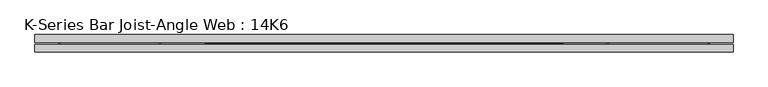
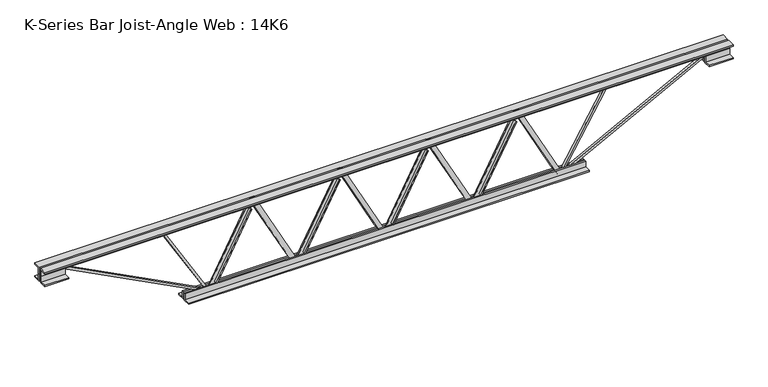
"""IFC4 building model written with IfcOpenShell, lengths in millimetres: beam geometry, K-Series Bar Joist-Angle Web : 14K6."""

from ifc_helpers import new_model, si_unit, frame, origin, place, context, project, spatial, polyline, outline, extrude, faceted_brep, source, transform, mapped, element, save


def k_series_bar_joist_angle_web_14k6_bca73873(model_context):
    return source(origin(), model_context, "Body", "SolidModel", [
        extrude(outline(polyline([(-4.7625, 4.7624999), (-4.7625, 0.0), (-17.4625, 0.0), (-17.4625, 4.7624999), (-4.7625, 4.7624999)])), frame((343.334481, 0.0, -139.7), z_axis=(-0.4666662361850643, 0.0, 0.8844335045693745), x_axis=(0.0, -1.0, 0.0)), (0.0, 0.0, 1.0), 315.9084301),
        extrude(outline(polyline([(-174.625, 373.85625), (-155.575, 373.85625), (-155.575, 373.2500443), (174.625, 199.0219193), (174.625, 180.578125), (155.575, 180.578125), (155.575, 187.5343307), (-174.625, 361.7624557), (-174.625, 373.85625)])), frame((0.0, 0.0, 0.0), z_axis=(0.0, 1.0, 0.0), x_axis=(0.0, 0.0, 1.0)), (0.0, 0.0, 1.0), 4.7625),
        faceted_brep([(0.0, 0.0, -155.575), (0.0, 0.0, -174.625), (0.0, -4.7625, -174.625), (0.0, -4.7625, -155.575), (0.6062057, 0.0, -155.575), (174.8343307, 0.0, 174.625), (193.278125, 0.0, 174.625), (193.278125, 0.0, 155.575), (186.3219193, 0.0, 155.575), (12.0937943, 0.0, -174.625), (12.0937943, -4.7625, -174.625), (30.521769, -4.7625, -139.7), (26.3096545, -4.7625, -137.4775021), (173.7334525, -4.7625, 141.9224979), (177.9455671, -4.7625, 139.7), (186.3219193, -4.7625, 155.575), (193.278125, -4.7625, 155.575), (193.278125, -4.7625, 174.625), (174.8343307, -4.7625, 174.625), (0.6062057, -4.7625, -155.575), (177.9455671, -17.4625, 139.7), (30.521769, -17.4625, -139.7), (26.3096545, -17.4625, -137.4775021), (173.7334525, -17.4625, 141.9224979)], [[[0, 1, 2, 3]], [[1, 0, 4, 5, 6, 7, 8, 9]], [[2, 1, 9, 10]], [[3, 2, 10, 11, 12, 13, 14, 15, 16, 17, 18, 19]], [[0, 3, 19, 4]], [[9, 8, 15, 14, 20, 21, 11, 10]], [[5, 4, 19, 18]], [[7, 6, 17, 16]], [[8, 7, 16, 15]], [[6, 5, 18, 17]], [[21, 22, 12, 11]], [[20, 14, 13, 23]], [[22, 21, 20, 23]], [[12, 22, 23, 13]]]),
        extrude(outline(polyline([(-4.7625, 4.7624999), (-4.7625, 0.0), (-17.4625, 0.0), (-17.4625, 4.7624999), (-4.7625, 4.7624999)])), frame((-30.521769, 0.0, -139.7), z_axis=(-0.4666662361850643, 0.0, 0.8844335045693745), x_axis=(0.0, -1.0, 0.0)), (0.0, 0.0, 1.0), 315.9084301),
        extrude(outline(polyline([(-174.625, 0.0), (-155.575, 0.0), (-155.575, -0.6062057), (174.625, -174.8343307), (174.625, -193.278125), (155.575, -193.278125), (155.575, -186.3219193), (-174.625, -12.0937943), (-174.625, 0.0)])), frame((0.0, 0.0, 0.0), z_axis=(0.0, 1.0, 0.0), x_axis=(0.0, 0.0, 1.0)), (0.0, 0.0, 1.0), 4.7625),
        faceted_brep([(-373.85625, 0.0, -155.575), (-373.85625, 0.0, -174.625), (-373.85625, -4.7625, -174.625), (-373.85625, -4.7625, -155.575), (-373.2500443, 0.0, -155.575), (-199.0219193, 0.0, 174.625), (-180.578125, 0.0, 174.625), (-180.578125, 0.0, 155.575), (-187.5343307, 0.0, 155.575), (-361.7624557, 0.0, -174.625), (-361.7624557, -4.7625, -174.625), (-343.334481, -4.7625, -139.7), (-347.5465955, -4.7625, -137.4775021), (-200.1227975, -4.7625, 141.9224979), (-195.9106829, -4.7625, 139.7), (-187.5343307, -4.7625, 155.575), (-180.578125, -4.7625, 155.575), (-180.578125, -4.7625, 174.625), (-199.0219193, -4.7625, 174.625), (-373.2500443, -4.7625, -155.575), (-195.9106829, -17.4625, 139.7), (-343.334481, -17.4625, -139.7), (-347.5465955, -17.4625, -137.4775021), (-200.1227975, -17.4625, 141.9224979)], [[[0, 1, 2, 3]], [[1, 0, 4, 5, 6, 7, 8, 9]], [[2, 1, 9, 10]], [[3, 2, 10, 11, 12, 13, 14, 15, 16, 17, 18, 19]], [[0, 3, 19, 4]], [[9, 8, 15, 14, 20, 21, 11, 10]], [[5, 4, 19, 18]], [[7, 6, 17, 16]], [[8, 7, 16, 15]], [[6, 5, 18, 17]], [[21, 22, 12, 11]], [[20, 14, 13, 23]], [[22, 21, 20, 23]], [[12, 22, 23, 13]]]),
        extrude(outline(polyline([(-4.7625, 4.7624999), (-4.7625, 0.0), (-17.4625, 0.0), (-17.4625, 4.7624999), (-4.7625, 4.7624999)])), frame((717.190731, 0.0, -139.7), z_axis=(-0.4666662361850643, 0.0, 0.8844335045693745), x_axis=(0.0, -1.0, 0.0)), (0.0, 0.0, 1.0), 315.9084301),
        extrude(outline(polyline([(-174.625, 747.7125), (-155.575, 747.7125), (-155.575, 747.1062943), (174.625, 572.8781693), (174.625, 554.434375), (155.575, 554.434375), (155.575, 561.3905807), (-174.625, 735.6187057), (-174.625, 747.7125)])), frame((0.0, 0.0, 0.0), z_axis=(0.0, 1.0, 0.0), x_axis=(0.0, 0.0, 1.0)), (0.0, 0.0, 1.0), 4.7625),
        faceted_brep([(373.85625, 0.0, -155.575), (373.85625, 0.0, -174.625), (373.85625, -4.7625, -174.625), (373.85625, -4.7625, -155.575), (374.4624557, 0.0, -155.575), (548.6905807, 0.0, 174.625), (567.134375, 0.0, 174.625), (567.134375, 0.0, 155.575), (560.1781693, 0.0, 155.575), (385.9500443, 0.0, -174.625), (385.9500443, -4.7625, -174.625), (404.378019, -4.7625, -139.7), (400.1659045, -4.7625, -137.4775021), (547.5897025, -4.7625, 141.9224979), (551.8018171, -4.7625, 139.7), (560.1781693, -4.7625, 155.575), (567.134375, -4.7625, 155.575), (567.134375, -4.7625, 174.625), (548.6905807, -4.7625, 174.625), (374.4624557, -4.7625, -155.575), (551.8018171, -17.4625, 139.7), (404.378019, -17.4625, -139.7), (400.1659045, -17.4625, -137.4775021), (547.5897025, -17.4625, 141.9224979)], [[[0, 1, 2, 3]], [[1, 0, 4, 5, 6, 7, 8, 9]], [[2, 1, 9, 10]], [[3, 2, 10, 11, 12, 13, 14, 15, 16, 17, 18, 19]], [[0, 3, 19, 4]], [[9, 8, 15, 14, 20, 21, 11, 10]], [[5, 4, 19, 18]], [[7, 6, 17, 16]], [[8, 7, 16, 15]], [[6, 5, 18, 17]], [[21, 22, 12, 11]], [[20, 14, 13, 23]], [[22, 21, 20, 23]], [[12, 22, 23, 13]]]),
        extrude(outline(polyline([(-4.7625, 4.7624999), (-4.7625, 0.0), (-17.4625, 0.0), (-17.4625, 4.7624999), (-4.7625, 4.7624999)])), frame((-404.378019, 0.0, -139.7), z_axis=(-0.4666662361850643, 0.0, 0.8844335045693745), x_axis=(0.0, -1.0, 0.0)), (0.0, 0.0, 1.0), 315.9084301),
        extrude(outline(polyline([(-174.625, -373.85625), (-155.575, -373.85625), (-155.575, -374.4624557), (174.625, -548.6905807), (174.625, -567.134375), (155.575, -567.134375), (155.575, -560.1781693), (-174.625, -385.9500443), (-174.625, -373.85625)])), frame((0.0, 0.0, 0.0), z_axis=(0.0, 1.0, 0.0), x_axis=(0.0, 0.0, 1.0)), (0.0, 0.0, 1.0), 4.7625),
        faceted_brep([(-747.7125, 0.0, -155.575), (-747.7125, 0.0, -174.625), (-747.7125, -4.7625, -174.625), (-747.7125, -4.7625, -155.575), (-747.1062943, 0.0, -155.575), (-572.8781693, 0.0, 174.625), (-554.434375, 0.0, 174.625), (-554.434375, 0.0, 155.575), (-561.3905807, 0.0, 155.575), (-735.6187057, 0.0, -174.625), (-735.6187057, -4.7625, -174.625), (-717.190731, -4.7625, -139.7), (-721.4028455, -4.7625, -137.4775021), (-573.9790475, -4.7625, 141.9224979), (-569.7669329, -4.7625, 139.7), (-561.3905807, -4.7625, 155.575), (-554.434375, -4.7625, 155.575), (-554.434375, -4.7625, 174.625), (-572.8781693, -4.7625, 174.625), (-747.1062943, -4.7625, -155.575), (-569.7669329, -17.4625, 139.7), (-717.190731, -17.4625, -139.7), (-721.4028455, -17.4625, -137.4775021), (-573.9790475, -17.4625, 141.9224979)], [[[0, 1, 2, 3]], [[1, 0, 4, 5, 6, 7, 8, 9]], [[2, 1, 9, 10]], [[3, 2, 10, 11, 12, 13, 14, 15, 16, 17, 18, 19]], [[0, 3, 19, 4]], [[9, 8, 15, 14, 20, 21, 11, 10]], [[5, 4, 19, 18]], [[7, 6, 17, 16]], [[8, 7, 16, 15]], [[6, 5, 18, 17]], [[21, 22, 12, 11]], [[20, 14, 13, 23]], [[22, 21, 20, 23]], [[12, 22, 23, 13]]]),
        extrude(outline(polyline([(4.7625, 177.8), (36.5125, 177.8), (36.5125, 171.45), (11.1125, 171.45), (11.1125, 146.05), (4.7625, 146.05), (4.7625, 177.8)])), frame((-1458.9125, 0.0, 0.0), z_axis=(1.0, 0.0, 0.0), x_axis=(0.0, 1.0, 0.0)), (0.0, 0.0, 1.0), 2917.825),
        extrude(outline(polyline([(-4.7625, 177.8), (-4.7625, 146.05), (-11.1125, 146.05), (-11.1125, 171.45), (-36.5125, 171.45), (-36.5125, 177.8), (-4.7625, 177.8)])), frame((-1458.9125, 0.0, 0.0), z_axis=(1.0, 0.0, 0.0), x_axis=(0.0, 1.0, 0.0)), (0.0, 0.0, 1.0), 2917.825),
        extrude(outline(polyline([(4.7625, -177.8), (4.7625, -146.05), (11.1125, -146.05), (11.1125, -171.45), (36.5125, -171.45), (36.5125, -177.8), (4.7625, -177.8)])), frame((-849.3125, 0.0, 0.0), z_axis=(1.0, 0.0, 0.0), x_axis=(0.0, 1.0, 0.0)), (0.0, 0.0, 1.0), 1698.625),
        extrude(outline(polyline([(-4.7625, -177.8), (-36.5125, -177.8), (-36.5125, -171.45), (-11.1125, -171.45), (-11.1125, -146.05), (-4.7625, -146.05), (-4.7625, -177.8)])), frame((-849.3125, 0.0, 0.0), z_axis=(1.0, 0.0, 0.0), x_axis=(0.0, 1.0, 0.0)), (0.0, 0.0, 1.0), 1698.625),
        extrude(outline(polyline([(4.7625, 114.3), (4.7625, 146.05), (11.1125, 146.05), (11.1125, 120.65), (36.5125, 120.65), (36.5125, 114.3), (4.7625, 114.3)])), frame((1357.3125, 0.0, 0.0), z_axis=(1.0, 0.0, 0.0), x_axis=(0.0, 1.0, 0.0)), (0.0, 0.0, 1.0), 101.6),
        extrude(outline(polyline([(-4.7625, 114.3), (-36.5125, 114.3), (-36.5125, 120.65), (-11.1125, 120.65), (-11.1125, 146.05), (-4.7625, 146.05), (-4.7625, 114.3)])), frame((1357.3125, 0.0, 0.0), z_axis=(1.0, 0.0, 0.0), x_axis=(0.0, 1.0, 0.0)), (0.0, 0.0, 1.0), 101.6),
        extrude(outline(polyline([(-4.7625, 114.3), (-36.5125, 114.3), (-36.5125, 120.65), (-11.1125, 120.65), (-11.1125, 146.05), (-4.7625, 146.05), (-4.7625, 114.3)])), frame((-1458.9125, 0.0, 0.0), z_axis=(1.0, 0.0, 0.0), x_axis=(0.0, 1.0, 0.0)), (0.0, 0.0, 1.0), 101.6),
        extrude(outline(polyline([(36.5125, 114.3), (4.7625, 114.3), (4.7625, 146.05), (11.1125, 146.05), (11.1125, 120.65), (36.5125, 120.65), (36.5125, 114.3)])), frame((-1458.9125, 0.0, 0.0), z_axis=(1.0, 0.0, 0.0), x_axis=(0.0, 1.0, 0.0)), (0.0, 0.0, 1.0), 101.6),
        extrude(outline(polyline([(4.7625, 4.7625), (4.7625, -4.7625), (-4.7625, -4.7625), (-4.7625, 4.7625), (4.7625, 4.7625)])), frame((-747.7125, 0.0, -171.45), z_axis=(-0.5073496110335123, 0.0, 0.8617403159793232), x_axis=(0.0, -1.0, 0.0)), (0.0, 0.0, 1.0), 368.4404618),
        extrude(outline(polyline([(4.7625, 4.7625), (4.7625, -4.7625), (-4.7625, -4.7625), (-4.7625, 4.7625), (4.7625, 4.7625)])), frame((747.7125, 0.0, -171.45), z_axis=(0.5073496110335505, 0.0, 0.8617403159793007), x_axis=(0.0, -1.0, 0.0)), (0.0, 0.0, 1.0), 368.4404618),
        extrude(outline(polyline([(0.0, -9.525), (0.0, 0.0), (687.3270037, 0.0), (687.3270037, -9.525), (0.0, -9.525)])), frame((-1359.5124627, 4.7625, 141.8260717), z_axis=(0.4619344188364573, 0.0, 0.8869140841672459), x_axis=(0.8869140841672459, 0.0, -0.4619344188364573)), (0.0, 0.0, 1.0), 9.525),
        extrude(outline(polyline([(0.0, -9.525), (0.0, 0.0), (687.3270037, 0.0), (687.3270037, -9.525), (0.0, -9.525)])), frame((1359.5124627, -4.7625, 141.8260717), z_axis=(-0.46193441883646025, 0.0, 0.8869140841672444), x_axis=(-0.8869140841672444, 0.0, -0.46193441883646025)), (0.0, 0.0, 1.0), 9.525),
    ])


if __name__ == "__main__":
    model = new_model("IFC4")
    model_context = context("Model", 3, world=origin())
    ifc_project = project(units=[si_unit("LENGTHUNIT", "METRE", prefix="MILLI")], contexts=[model_context])
    site = spatial("IfcSite", under=ifc_project)
    building = spatial("IfcBuilding", under=site)
    placement = place(None, origin())
    k_series_bar_joist_angle_web_14k6_shape = k_series_bar_joist_angle_web_14k6_bca73873(model_context)
    element("IfcBeam", 1, ObjectType="K-Series Bar Joist-Angle Web : 14K6", at=placement, inside=building, context=model_context, shape_type="MappedRepresentation", body=[
        mapped(k_series_bar_joist_angle_web_14k6_shape, transform((0.0, 0.0, 0.0), x_axis=(1.0, 0.0, 0.0), y_axis=(0.0, 1.0, 0.0), z_axis=(0.0, 0.0, 1.0))),
    ])
    save(model, "model.ifc")
